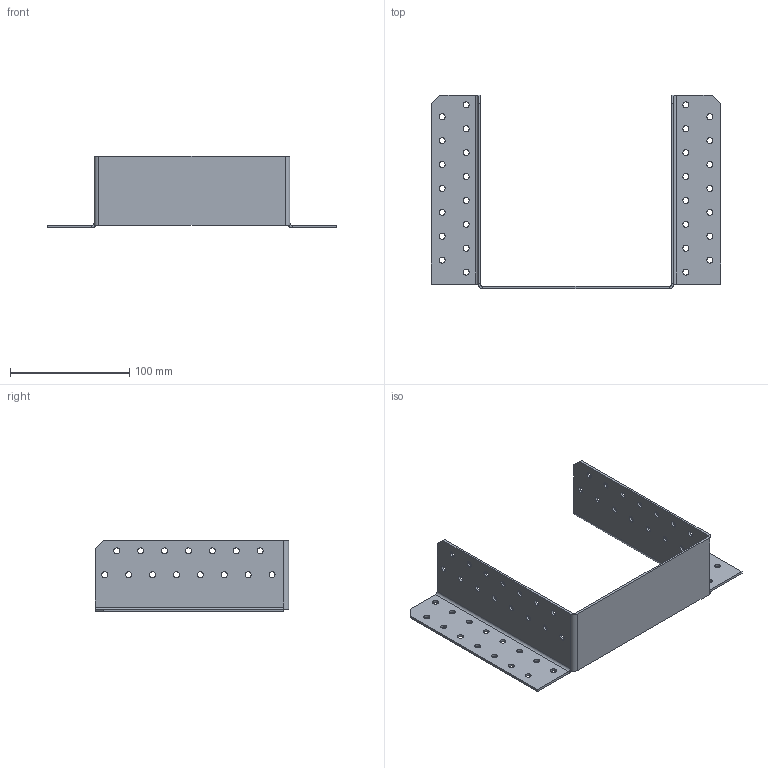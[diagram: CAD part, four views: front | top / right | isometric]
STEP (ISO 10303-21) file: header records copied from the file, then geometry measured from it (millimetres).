
FILE_DESCRIPTION (( 'STEP AP203' ), '1' );
FILE_NAME ('405162.STEP', '2021-04-17T17:07:30', ( '' ), ( '' ), 'SwSTEP 2.0', 'SolidWorks 2013', '' );
FILE_SCHEMA (( 'CONFIG_CONTROL_DESIGN' ));
Length unit declared in the file: millimetre
Products named in the file (1): 405162
Bounding box: 242 x 162 x 60 mm (x, y, z)
Volume: 78391.3 mm3; surface area: 82720.2 mm2
Topology: 1 solids, 1 shells, 164 faces, 456 edges, 294 vertices
Faces by surface type: cylinder 128, plane 36
Entity records: 5675 total; most frequent: DIRECTION 1044, CARTESIAN_POINT 915, ORIENTED_EDGE 912, EDGE_CURVE 456, AXIS2_PLACEMENT_3D 423, VERTEX_POINT 294, EDGE_LOOP 284, CIRCLE 258
